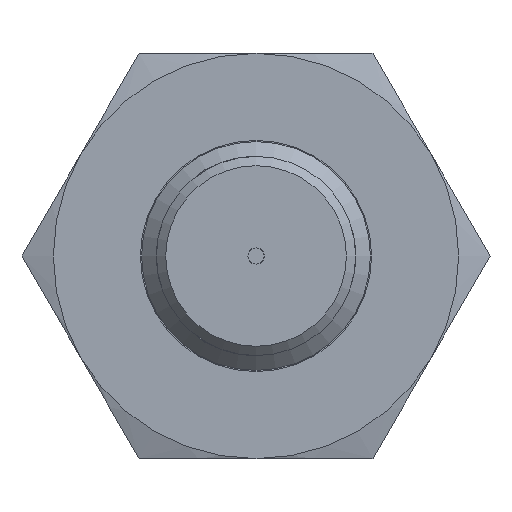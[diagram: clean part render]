
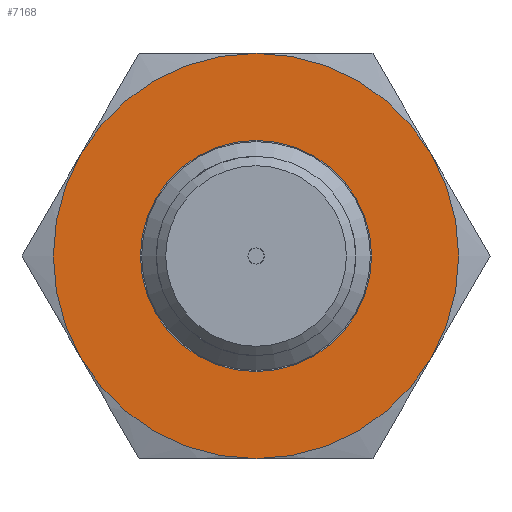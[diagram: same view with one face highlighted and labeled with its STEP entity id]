
A CAD part, left-side view. The second image highlights one B-rep face of the part: STEP entity #7168.
In plain terms, the highlighted planar face has unit normal (-1, 0, 0).
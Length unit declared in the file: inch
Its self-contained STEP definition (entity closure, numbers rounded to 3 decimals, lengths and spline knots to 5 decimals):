
#1861=CARTESIAN_POINT('',(-0.2475,0.,0.4375));
#1862=VERTEX_POINT('',#1861);
#1863=CARTESIAN_POINT('',(-0.2475,0.0,0.0));
#1864=DIRECTION('',(-1.0,0.0,0.0));
#1865=DIRECTION('',(0.0,0.0,-1.0));
#1866=AXIS2_PLACEMENT_3D('',#1863,#1864,#1865);
#1867=CIRCLE('',#1866,0.4375);
#1868=EDGE_CURVE('',#1862,#1862,#1867,.T.);
#2161=CARTESIAN_POINT('',(-0.2475,-0.2495,0.));
#2162=VERTEX_POINT('',#2161);
#2163=CARTESIAN_POINT('',(-0.2475,0.0,0.0));
#2164=DIRECTION('',(-1.0,0.0,0.0));
#2165=DIRECTION('',(0.0,1.0,0.0));
#2166=AXIS2_PLACEMENT_3D('',#2163,#2164,#2165);
#2167=CIRCLE('',#2166,0.2495);
#2168=EDGE_CURVE('',#2162,#2162,#2167,.T.);
#7157=CARTESIAN_POINT('',(-0.2475,0.4375,0.0));
#7158=DIRECTION('',(-1.0,0.0,0.0));
#7159=DIRECTION('',(0.0,0.0,1.0));
#7160=AXIS2_PLACEMENT_3D('',#7157,#7158,#7159);
#7161=PLANE('',#7160);
#7162=ORIENTED_EDGE('',*,*,#1868,.T.);
#7163=EDGE_LOOP('',(#7162));
#7164=FACE_OUTER_BOUND('',#7163,.T.);
#7165=ORIENTED_EDGE('',*,*,#2168,.F.);
#7166=EDGE_LOOP('',(#7165));
#7167=FACE_BOUND('',#7166,.T.);
#7168=ADVANCED_FACE('',(#7164,#7167),#7161,.T.);
